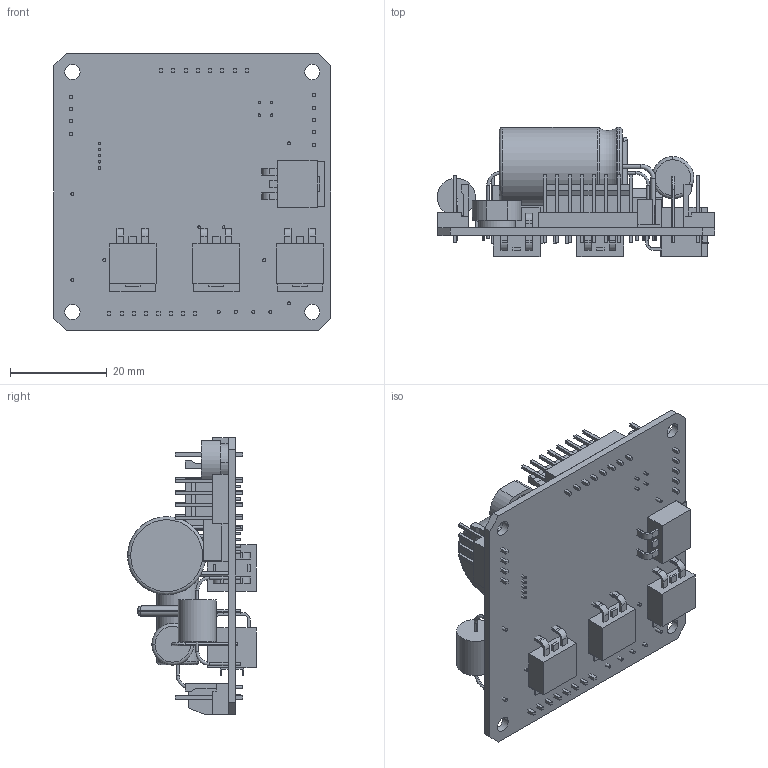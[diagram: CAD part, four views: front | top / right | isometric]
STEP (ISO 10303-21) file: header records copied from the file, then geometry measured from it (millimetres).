
FILE_DESCRIPTION((''),'2;1');
FILE_NAME('E2HK23ENHC_ASM','2008-09-02T',('yeevh'),(''),'PRO/ENGINEER BY PARAMETRIC TECHNOLOGY CORPORATION, 2006300','PRO/ENGINEER BY PARAMETRIC TECHNOLOGY CORPORATION, 2006300','');
FILE_SCHEMA(('CONFIG_CONTROL_DESIGN'));
Length unit declared in the file: inch
Products named in the file (15): PCB_2; CONNECTOR_8PIN; CONNECTOR_4PIN; CONNECTOR_5PIN; CONNECTOR_4_WIRE; IC_1; CAPACITOR_3_050OHM; CAPACITOR_4; CAPACITOR_11; CAPACITOR_5; POT_1; COIL_6; CONNECTOR_4PIN_MINI; CONNECTOR_5_MINI; E2HK23ENHC_ASM
Assembly tree (23 placements, depth 2):
  E2HK23ENHC_ASM
    PCB_2
    CONNECTOR_8PIN  x2
    CONNECTOR_4PIN
    CONNECTOR_5PIN
    CONNECTOR_4_WIRE
    IC_1  x8
    CAPACITOR_3_050OHM  x2
    CAPACITOR_4
    CAPACITOR_11
    CAPACITOR_5
    POT_1
    COIL_6
    CONNECTOR_4PIN_MINI
    CONNECTOR_5_MINI
Bounding box: 57.28 x 26.61 x 57.15 mm (x, y, z)
Volume: 19544.3 mm3; surface area: 19126 mm2
Topology: 23 solids, 23 shells, 1021 faces, 2533 edges, 1666 vertices
Faces by surface type: plane 799, cylinder 174, torus 40, bspline 8
Entity records: 18918 total; most frequent: CARTESIAN_POINT 3826, DIRECTION 3064, ORIENTED_EDGE 2972, EDGE_CURVE 1486, VECTOR 1128, LINE 1128, VERTEX_POINT 972, AXIS2_PLACEMENT_3D 968
